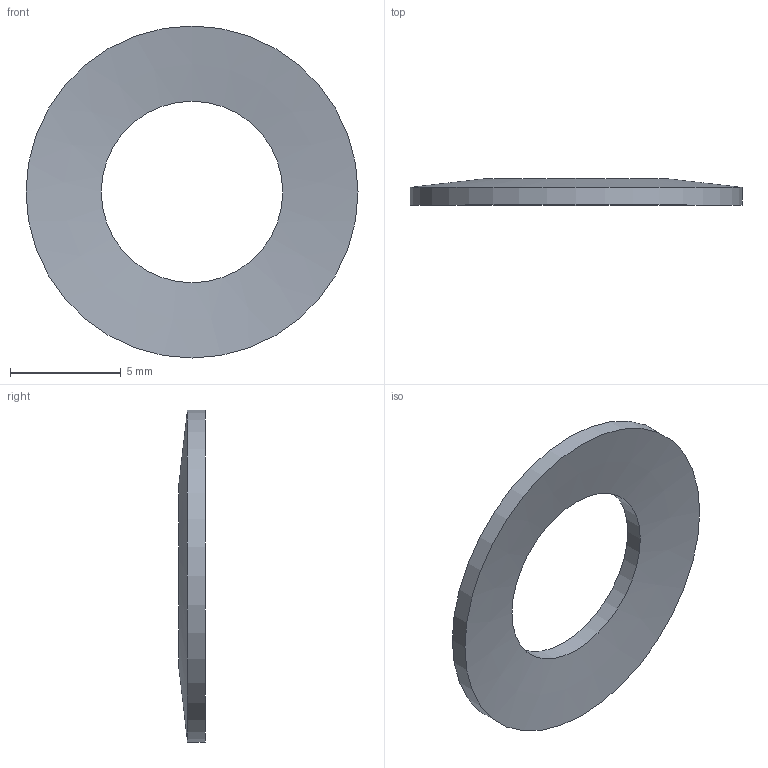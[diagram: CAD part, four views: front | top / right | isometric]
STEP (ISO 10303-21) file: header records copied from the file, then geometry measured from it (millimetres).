
FILE_DESCRIPTION(/* description */ ('982N'),/* implementation_level */ '2;1');
FILE_NAME(/* name */ 'ST.0150.0082.0080.step',/* time_stamp */ '2026-09-18T10:26:25+02:00',/* author */ ('impex-ready.pl'),/* organization */ ('ST.0150.0082.0080'),/* preprocessor_version */ 'ST-DEVELOPER v20.1',/* originating_system */ 'Autodesk Inventor 2026',/* authorisation */ 'Ugiecie 0,75 h0 = 0.30');
FILE_SCHEMA (('AUTOMOTIVE_DESIGN { 1 0 10303 214 3 1 1 }'));
Length unit declared in the file: millimetre
Products named in the file (1): ST.0150.0082.0080
Bounding box: 15 x 1.2 x 15 mm (x, y, z)
Volume: 99.8 mm3; surface area: 308.2 mm2
Topology: 1 solids, 1 shells, 4 faces, 8 edges, 4 vertices
Faces by surface type: cone 2, cylinder 2
Full cylindrical faces by diameter (mm): 8.2 x1, 15 x1
Entity records: 151 total; most frequent: DIRECTION 22, CARTESIAN_POINT 17, ORIENTED_EDGE 16, AXIS2_PLACEMENT_3D 9, EDGE_CURVE 8, FACE_OUTER_BOUND 4, EDGE_LOOP 4, LINE 4
